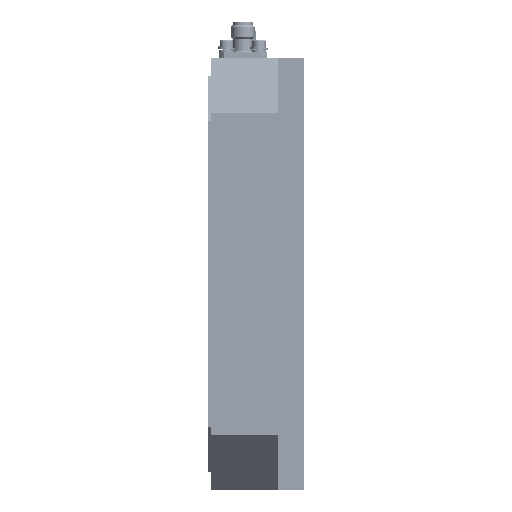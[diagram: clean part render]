
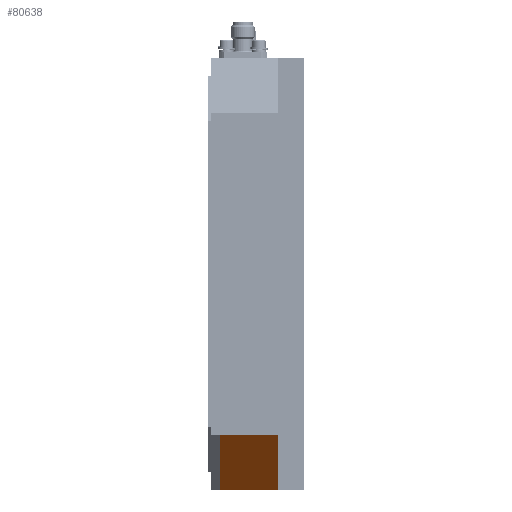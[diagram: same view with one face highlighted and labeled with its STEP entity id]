
A CAD part, left-side view. The second image highlights one B-rep face of the part: STEP entity #80638.
In plain terms, the highlighted planar face has unit normal (-0.707, 0, -0.707).
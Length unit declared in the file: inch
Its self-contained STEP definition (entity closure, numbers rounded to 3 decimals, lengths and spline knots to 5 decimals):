
#4475 = DIRECTION ( 'NONE',  ( 0.707, 0., -0.707 ) ) ;
#17960 = CARTESIAN_POINT ( 'NONE',  ( -3.05, 0.875, -2.25 ) ) ;
#19010 = VECTOR ( 'NONE', #121053, 39.37008 ) ;
#21208 = DIRECTION ( 'NONE',  ( 0., 1., 0. ) ) ;
#36337 = LINE ( 'NONE', #280552, #37336 ) ;
#37336 = VECTOR ( 'NONE', #4475, 39.37008 ) ;
#51592 = CARTESIAN_POINT ( 'NONE',  ( -3.05, 0.275, -2.25 ) ) ;
#75632 = LINE ( 'NONE', #76485, #278773 ) ;
#76485 = CARTESIAN_POINT ( 'NONE',  ( -3.625, 0.275, -1.675 ) ) ;
#80638 = ADVANCED_FACE ( 'NONE', ( #92060 ), #212011, .F. ) ;
#92060 = FACE_OUTER_BOUND ( 'NONE', #181676, .T. ) ;
#93532 = EDGE_CURVE ( 'NONE', #298055, #166595, #155012, .T. ) ;
#106188 = EDGE_CURVE ( 'NONE', #284074, #166595, #222385, .T. ) ;
#112833 = ORIENTED_EDGE ( 'NONE', *, *, #228119, .T. ) ;
#113384 = ORIENTED_EDGE ( 'NONE', *, *, #160849, .F. ) ;
#117654 = AXIS2_PLACEMENT_3D ( 'NONE', #166494, #259283, #214016 ) ;
#121053 = DIRECTION ( 'NONE',  ( 0.707, 0., -0.707 ) ) ;
#123073 = CARTESIAN_POINT ( 'NONE',  ( -3.05, 0.875, -2.25 ) ) ;
#152491 = VECTOR ( 'NONE', #21208, 39.37008 ) ;
#155012 = LINE ( 'NONE', #254051, #152491 ) ;
#160849 = EDGE_CURVE ( 'NONE', #246384, #298055, #36337, .T. ) ;
#166494 = CARTESIAN_POINT ( 'NONE',  ( -3.05, 0.275, -2.25 ) ) ;
#166595 = VERTEX_POINT ( 'NONE', #17960 ) ;
#181676 = EDGE_LOOP ( 'NONE', ( #181680, #289999, #113384, #112833 ) ) ;
#181680 = ORIENTED_EDGE ( 'NONE', *, *, #106188, .T. ) ;
#212011 = PLANE ( 'NONE',  #117654 ) ;
#214016 = DIRECTION ( 'NONE',  ( 0.707, 0., -0.707 ) ) ;
#222385 = LINE ( 'NONE', #123073, #19010 ) ;
#228119 = EDGE_CURVE ( 'NONE', #246384, #284074, #75632, .T. ) ;
#246384 = VERTEX_POINT ( 'NONE', #251855 ) ;
#251855 = CARTESIAN_POINT ( 'NONE',  ( -3.625, 0.275, -1.675 ) ) ;
#254051 = CARTESIAN_POINT ( 'NONE',  ( -3.05, 0.275, -2.25 ) ) ;
#259283 = DIRECTION ( 'NONE',  ( 0.707, 0., 0.707 ) ) ;
#259810 = DIRECTION ( 'NONE',  ( 0., 1., 0. ) ) ;
#278773 = VECTOR ( 'NONE', #259810, 39.37008 ) ;
#280552 = CARTESIAN_POINT ( 'NONE',  ( -3.05, 0.275, -2.25 ) ) ;
#284074 = VERTEX_POINT ( 'NONE', #288794 ) ;
#288794 = CARTESIAN_POINT ( 'NONE',  ( -3.625, 0.875, -1.675 ) ) ;
#289999 = ORIENTED_EDGE ( 'NONE', *, *, #93532, .F. ) ;
#298055 = VERTEX_POINT ( 'NONE', #51592 ) ;
